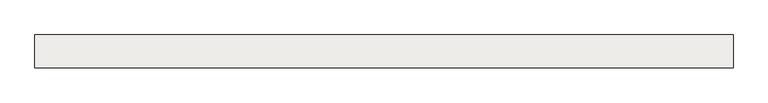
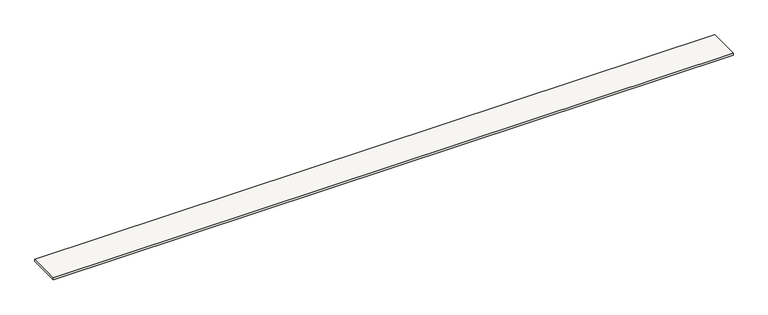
"""IFC4 building model written with IfcOpenShell, lengths in millimetres: slab geometry, Sol-02 - Tablette bois 2cm."""

from ifc_helpers import new_model, si_unit, origin, origin_with_axes, place, context, project, spatial, polyline, outline, extrude, source, transform, mapped, element, save


def slab_84b125f4(model_context):
    return source(origin(), model_context, "Body", "SweptSolid", [
        extrude(outline(polyline([(31921.9983601, 11349.9999995), (31921.9983601, 10999.9999995), (24503.9999799, 10999.9999995), (24503.9999799, 11349.9999995), (31921.9983601, 11349.9999995)])), origin_with_axes(), (0.0, 0.0, 1.0), 20.0),
    ])


if __name__ == "__main__":
    model = new_model("IFC4")
    model_context = context("Model", 3, world=origin())
    ifc_project = project(units=[si_unit("LENGTHUNIT", "METRE", prefix="MILLI")], contexts=[model_context])
    site = spatial("IfcSite", under=ifc_project)
    building = spatial("IfcBuilding", under=site)
    placement = place(None, origin())
    slab_shape = slab_84b125f4(model_context)
    element("IfcSlab", 1, ObjectType="Sol-02 - Tablette bois 2cm", at=placement, inside=building, context=model_context, shape_type="MappedRepresentation", body=[
        mapped(slab_shape, transform((0.0, 0.0, 0.0), x_axis=(1.0, 0.0, 0.0), y_axis=(0.0, 1.0, 0.0), z_axis=(0.0, 0.0, 1.0))),
    ])
    save(model, "model.ifc")
